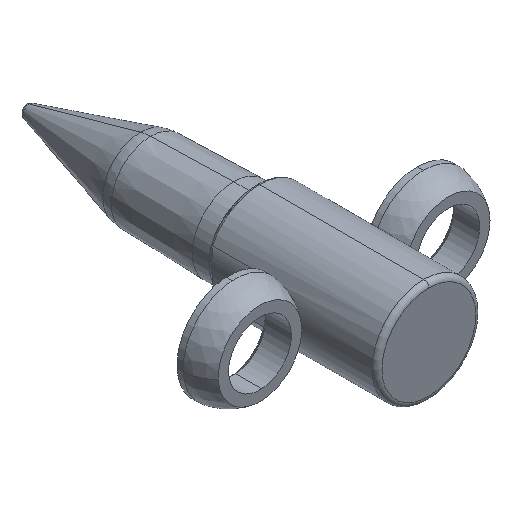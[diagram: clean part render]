
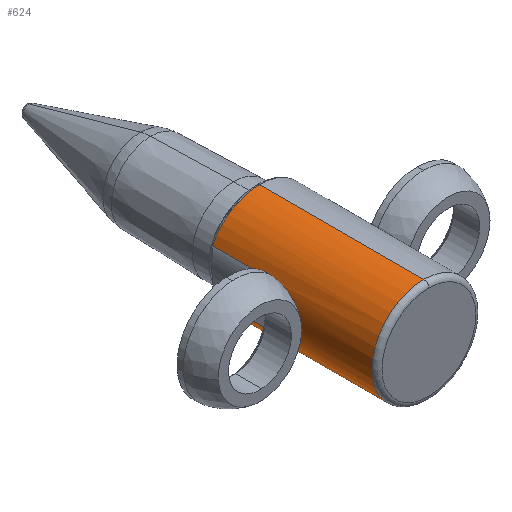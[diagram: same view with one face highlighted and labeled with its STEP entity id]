
A CAD part, isometric view. The second image highlights one B-rep face of the part: STEP entity #624.
In plain terms, the highlighted cylindrical face has radius 7.938 mm (diameter 15.875 mm), a partial arc.
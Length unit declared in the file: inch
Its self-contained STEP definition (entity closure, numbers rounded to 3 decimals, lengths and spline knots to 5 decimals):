
#2 = ORIENTED_EDGE ( 'NONE', *, *, #25, .T. ) ;
#11 = CARTESIAN_POINT ( 'NONE',  ( 0., -0.055, -0.3125 ) ) ;
#25 = EDGE_CURVE ( 'NONE', #105, #826, #119, .T. ) ;
#47 = CARTESIAN_POINT ( 'NONE',  ( 0., -1.075, 0. ) ) ;
#53 = CARTESIAN_POINT ( 'NONE',  ( 0., -1.045, 0.3125 ) ) ;
#60 = VERTEX_POINT ( 'NONE', #893 ) ;
#65 = CARTESIAN_POINT ( 'NONE',  ( -0.28212, -0.45684, 0.13441 ) ) ;
#68 = LINE ( 'NONE', #1194, #1189 ) ;
#83 = CARTESIAN_POINT ( 'NONE',  ( -0.31236, -0.62057, -0.01076 ) ) ;
#92 = CARTESIAN_POINT ( 'NONE',  ( -0.30833, -0.6078, -0.05113 ) ) ;
#105 = VERTEX_POINT ( 'NONE', #53 ) ;
#119 = LINE ( 'NONE', #670, #949 ) ;
#137 = AXIS2_PLACEMENT_3D ( 'NONE', #47, #273, #1024 ) ;
#140 = VERTEX_POINT ( 'NONE', #478 ) ;
#164 = EDGE_LOOP ( 'NONE', ( #1341, #579, #2, #1002, #251, #213, #1162, #219, #901 ) ) ;
#165 = VERTEX_POINT ( 'NONE', #483 ) ;
#172 = CARTESIAN_POINT ( 'NONE',  ( -0.30201, -0.58564, 0.08036 ) ) ;
#179 = CARTESIAN_POINT ( 'NONE',  ( -0.29317, -0.54771, 0.10835 ) ) ;
#182 = DIRECTION ( 'NONE',  ( 0., 0., 1. ) ) ;
#186 = VECTOR ( 'NONE', #1230, 39.37008 ) ;
#213 = ORIENTED_EDGE ( 'NONE', *, *, #1201, .T. ) ;
#219 = ORIENTED_EDGE ( 'NONE', *, *, #663, .T. ) ;
#251 = ORIENTED_EDGE ( 'NONE', *, *, #945, .T. ) ;
#273 = DIRECTION ( 'NONE',  ( 0., 1., 0. ) ) ;
#291 = CARTESIAN_POINT ( 'NONE',  ( -0.28819, -0.51896, 0.12091 ) ) ;
#294 = CARTESIAN_POINT ( 'NONE',  ( -0.297, -0.5656, 0.09737 ) ) ;
#306 = CARTESIAN_POINT ( 'NONE',  ( -0.29316, -0.54766, -0.10838 ) ) ;
#311 = CARTESIAN_POINT ( 'NONE',  ( -0.30199, -0.58556, -0.08044 ) ) ;
#321 = CARTESIAN_POINT ( 'NONE',  ( -0.30488, -0.59607, -0.06873 ) ) ;
#325 = VECTOR ( 'NONE', #703, 39.37008 ) ;
#354 = DIRECTION ( 'NONE',  ( 0., 0., 1. ) ) ;
#387 = CARTESIAN_POINT ( 'NONE',  ( -0.28212, -0.1605, -0.13441 ) ) ;
#397 = CARTESIAN_POINT ( 'NONE',  ( -0.30841, -0.60816, 0.05117 ) ) ;
#400 = CARTESIAN_POINT ( 'NONE',  ( -0.3125, -0.621, 0.01072 ) ) ;
#405 = CARTESIAN_POINT ( 'NONE',  ( -0.28818, -0.5189, -0.12093 ) ) ;
#411 = CARTESIAN_POINT ( 'NONE',  ( -0.28212, -0.43538, -0.13441 ) ) ;
#422 = CARTESIAN_POINT ( 'NONE',  ( -0.28212, -0.45681, -0.13441 ) ) ;
#424 = CIRCLE ( 'NONE', #787, 0.3125 ) ;
#431 = VERTEX_POINT ( 'NONE', #557 ) ;
#432 = VERTEX_POINT ( 'NONE', #1321 ) ;
#478 = CARTESIAN_POINT ( 'NONE',  ( -0.3125, -0.621, 0. ) ) ;
#483 = CARTESIAN_POINT ( 'NONE',  ( -0.28212, -0.055, 0.13441 ) ) ;
#485 = CARTESIAN_POINT ( 'NONE',  ( -0.28212, -0.055, -0.13441 ) ) ;
#492 = CARTESIAN_POINT ( 'NONE',  ( 0., -1.045, 0. ) ) ;
#504 = CYLINDRICAL_SURFACE ( 'NONE', #137, 0.3125 ) ;
#510 = B_SPLINE_CURVE_WITH_KNOTS ( 'NONE', 3,
 ( #532, #1397, #83, #1304, #527, #614, #1411, #92, #513, #848, #321, #737, #311, #749, #1283, #306, #964, #405, #516, #756, #422, #411 ),
 .UNSPECIFIED., .F., .F.,
 ( 4, 2, 2, 2, 2, 2, 2, 2, 2, 2, 4 ),
 ( 0.00647, 0.00688, 0.00728, 0.00768, 0.00809, 0.00849, 0.0089, 0.0097, 0.01051, 0.01132, 0.01293 ),
 .UNSPECIFIED. ) ;
#511 = VERTEX_POINT ( 'NONE', #11 ) ;
#513 = CARTESIAN_POINT ( 'NONE',  ( -0.30753, -0.60516, -0.0557 ) ) ;
#516 = CARTESIAN_POINT ( 'NONE',  ( -0.28678, -0.50882, -0.12419 ) ) ;
#527 = CARTESIAN_POINT ( 'NONE',  ( -0.31142, -0.61768, -0.02645 ) ) ;
#532 = CARTESIAN_POINT ( 'NONE',  ( -0.3125, -0.621, 0. ) ) ;
#534 = CARTESIAN_POINT ( 'NONE',  ( 0., -0.055, 0. ) ) ;
#549 = B_SPLINE_CURVE_WITH_KNOTS ( 'NONE', 3,
 ( #1045, #65, #832, #829, #291, #1381, #179, #294, #612, #172, #706, #1163, #932, #397, #1157, #1275, #400, #717 ),
 .UNSPECIFIED., .F., .F.,
 ( 4, 2, 2, 2, 2, 2, 2, 2, 4 ),
 ( 0., 0.00162, 0.00243, 0.00324, 0.00405, 0.00445, 0.00485, 0.00566, 0.00647 ),
 .UNSPECIFIED. ) ;
#557 = CARTESIAN_POINT ( 'NONE',  ( 0., -1.045, -0.3125 ) ) ;
#565 = DIRECTION ( 'NONE',  ( 0., -1., 0. ) ) ;
#579 = ORIENTED_EDGE ( 'NONE', *, *, #764, .T. ) ;
#612 = CARTESIAN_POINT ( 'NONE',  ( -0.29904, -0.57413, 0.09102 ) ) ;
#614 = CARTESIAN_POINT ( 'NONE',  ( -0.31039, -0.61445, -0.0366 ) ) ;
#624 = ADVANCED_FACE ( 'NONE', ( #1297 ), #504, .T. ) ;
#663 = EDGE_CURVE ( 'NONE', #432, #1081, #1227, .T. ) ;
#670 = CARTESIAN_POINT ( 'NONE',  ( 0., -1.075, 0.3125 ) ) ;
#674 = CIRCLE ( 'NONE', #1360, 0.3125 ) ;
#687 = EDGE_CURVE ( 'NONE', #431, #511, #910, .T. ) ;
#703 = DIRECTION ( 'NONE',  ( 0., 1., 0. ) ) ;
#706 = CARTESIAN_POINT ( 'NONE',  ( -0.30299, -0.58928, 0.0766 ) ) ;
#715 = AXIS2_PLACEMENT_3D ( 'NONE', #492, #836, #182 ) ;
#717 = CARTESIAN_POINT ( 'NONE',  ( -0.3125, -0.621, 0. ) ) ;
#737 = CARTESIAN_POINT ( 'NONE',  ( -0.30297, -0.5892, -0.07669 ) ) ;
#749 = CARTESIAN_POINT ( 'NONE',  ( -0.29903, -0.57407, -0.09107 ) ) ;
#756 = CARTESIAN_POINT ( 'NONE',  ( -0.28333, -0.47786, -0.13195 ) ) ;
#758 = DIRECTION ( 'NONE',  ( 0., -1., 0. ) ) ;
#764 = EDGE_CURVE ( 'NONE', #431, #105, #1191, .T. ) ;
#787 = AXIS2_PLACEMENT_3D ( 'NONE', #1228, #995, #354 ) ;
#826 = VERTEX_POINT ( 'NONE', #967 ) ;
#829 = CARTESIAN_POINT ( 'NONE',  ( -0.28678, -0.50886, 0.12418 ) ) ;
#832 = CARTESIAN_POINT ( 'NONE',  ( -0.28333, -0.4779, 0.13195 ) ) ;
#836 = DIRECTION ( 'NONE',  ( 0., 1., 0. ) ) ;
#848 = CARTESIAN_POINT ( 'NONE',  ( -0.30581, -0.59931, -0.06449 ) ) ;
#893 = CARTESIAN_POINT ( 'NONE',  ( -0.28212, -0.43538, 0.13441 ) ) ;
#901 = ORIENTED_EDGE ( 'NONE', *, *, #930, .T. ) ;
#910 = LINE ( 'NONE', #1388, #325 ) ;
#930 = EDGE_CURVE ( 'NONE', #1081, #511, #674, .T. ) ;
#932 = CARTESIAN_POINT ( 'NONE',  ( -0.30583, -0.59939, 0.06438 ) ) ;
#945 = EDGE_CURVE ( 'NONE', #165, #60, #68, .T. ) ;
#949 = VECTOR ( 'NONE', #1324, 39.37008 ) ;
#964 = CARTESIAN_POINT ( 'NONE',  ( -0.29137, -0.5383, -0.11303 ) ) ;
#967 = CARTESIAN_POINT ( 'NONE',  ( 0., -0.055, 0.3125 ) ) ;
#995 = DIRECTION ( 'NONE',  ( 0., -1., 0. ) ) ;
#1002 = ORIENTED_EDGE ( 'NONE', *, *, #1016, .T. ) ;
#1016 = EDGE_CURVE ( 'NONE', #826, #165, #424, .T. ) ;
#1024 = DIRECTION ( 'NONE',  ( 0., 0., 1. ) ) ;
#1045 = CARTESIAN_POINT ( 'NONE',  ( -0.28212, -0.43538, 0.13441 ) ) ;
#1081 = VERTEX_POINT ( 'NONE', #485 ) ;
#1088 = DIRECTION ( 'NONE',  ( 0., 0., 1. ) ) ;
#1157 = CARTESIAN_POINT ( 'NONE',  ( -0.30988, -0.61285, 0.04167 ) ) ;
#1162 = ORIENTED_EDGE ( 'NONE', *, *, #1317, .T. ) ;
#1163 = CARTESIAN_POINT ( 'NONE',  ( -0.3049, -0.59615, 0.06863 ) ) ;
#1189 = VECTOR ( 'NONE', #565, 39.37008 ) ;
#1191 = CIRCLE ( 'NONE', #715, 0.3125 ) ;
#1194 = CARTESIAN_POINT ( 'NONE',  ( -0.28212, -0.1605, 0.13441 ) ) ;
#1201 = EDGE_CURVE ( 'NONE', #60, #140, #549, .T. ) ;
#1227 = LINE ( 'NONE', #387, #186 ) ;
#1228 = CARTESIAN_POINT ( 'NONE',  ( 0., -0.055, 0. ) ) ;
#1230 = DIRECTION ( 'NONE',  ( 0., 1., 0. ) ) ;
#1275 = CARTESIAN_POINT ( 'NONE',  ( -0.31195, -0.61934, 0.0212 ) ) ;
#1283 = CARTESIAN_POINT ( 'NONE',  ( -0.297, -0.5656, -0.09738 ) ) ;
#1297 = FACE_OUTER_BOUND ( 'NONE', #164, .T. ) ;
#1304 = CARTESIAN_POINT ( 'NONE',  ( -0.31182, -0.61891, -0.02129 ) ) ;
#1317 = EDGE_CURVE ( 'NONE', #140, #432, #510, .T. ) ;
#1321 = CARTESIAN_POINT ( 'NONE',  ( -0.28212, -0.43538, -0.13441 ) ) ;
#1324 = DIRECTION ( 'NONE',  ( 0., 1., 0. ) ) ;
#1341 = ORIENTED_EDGE ( 'NONE', *, *, #687, .F. ) ;
#1360 = AXIS2_PLACEMENT_3D ( 'NONE', #534, #758, #1088 ) ;
#1381 = CARTESIAN_POINT ( 'NONE',  ( -0.29139, -0.53836, 0.113 ) ) ;
#1388 = CARTESIAN_POINT ( 'NONE',  ( 0., -1.075, -0.3125 ) ) ;
#1397 = CARTESIAN_POINT ( 'NONE',  ( -0.3125, -0.621, -0.00535 ) ) ;
#1411 = CARTESIAN_POINT ( 'NONE',  ( -0.30976, -0.61244, -0.0416 ) ) ;
